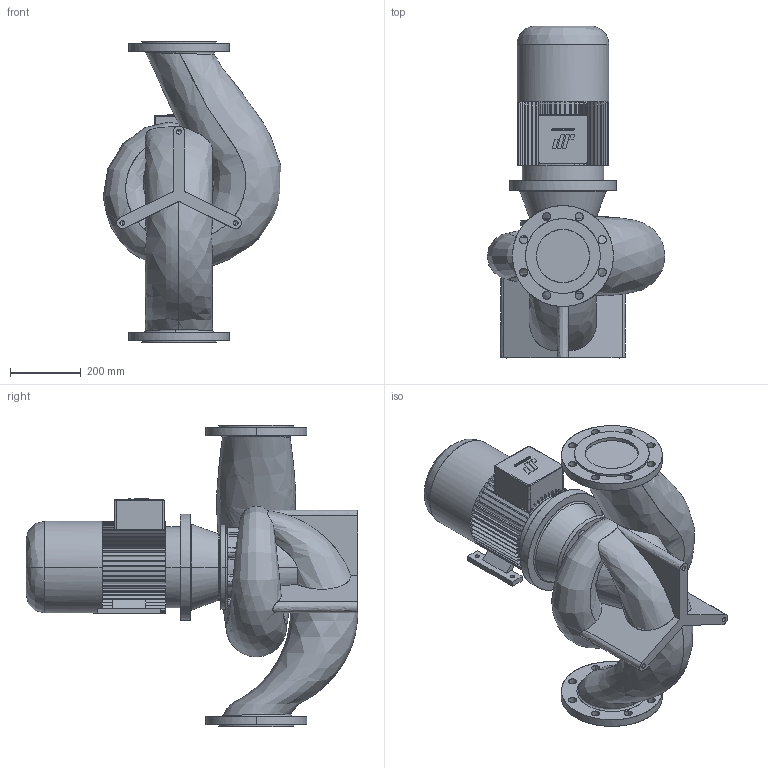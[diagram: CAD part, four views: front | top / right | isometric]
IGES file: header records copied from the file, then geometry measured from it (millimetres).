
Start section: CombiLine
Global section: file name: CLB_150-125_IEC1132S_ND10.igs; native system:  By UGS Corp.; preprocessor: XPlus GENERIC/IGES 3.0; author: Stageplaats; organization: Johnson Pump Water B.V.; date: 20070718.093734; units: millimetre
Bounding box: 501.27 x 937 x 850 mm (x, y, z)
Surface area: 2210220.2 mm2 (no closed solid volume)
Topology: 0 solids, 0 shells, 589 faces, 3567 edges, 3561 vertices
Faces by surface type: bspline 589
